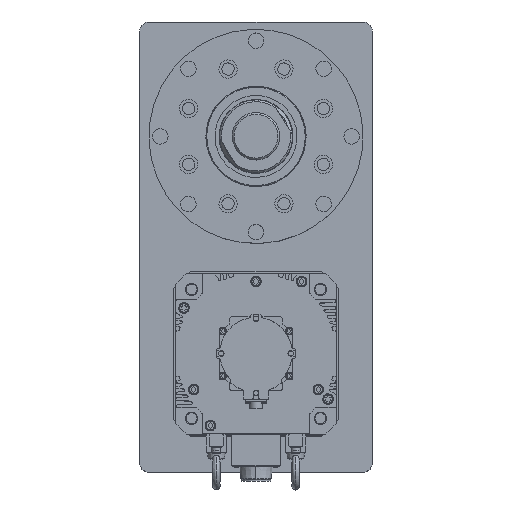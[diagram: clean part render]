
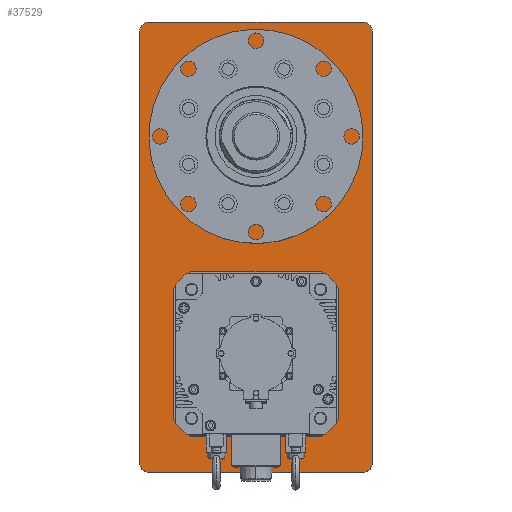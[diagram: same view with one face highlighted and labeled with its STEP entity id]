
A CAD part, top view. The second image highlights one B-rep face of the part: STEP entity #37529.
In plain terms, the highlighted planar face has unit normal (0, 0, 1) as drawn and (0, 0, -1) by its records, which use the part's own axes.
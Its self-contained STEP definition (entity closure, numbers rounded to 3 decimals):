
#390 = CARTESIAN_POINT ( 'NONE',  ( 0., -103., 0. ) ) ;
#407 = DIRECTION ( 'NONE',  ( -1., 0., 0. ) ) ;
#619 = CIRCLE ( 'NONE', #46051, 65. ) ;
#770 = ORIENTED_EDGE ( 'NONE', *, *, #1337, .T. ) ;
#855 = ORIENTED_EDGE ( 'NONE', *, *, #17366, .T. ) ;
#950 = AXIS2_PLACEMENT_3D ( 'NONE', #38802, #14546, #10804 ) ;
#1337 = EDGE_CURVE ( 'NONE', #33005, #2545, #13786, .T. ) ;
#1939 = ORIENTED_EDGE ( 'NONE', *, *, #43393, .T. ) ;
#1955 = EDGE_CURVE ( 'NONE', #38753, #8290, #36925, .T. ) ;
#2545 = VERTEX_POINT ( 'NONE', #38505 ) ;
#3919 = DIRECTION ( 'NONE',  ( 0., 0., -1. ) ) ;
#4304 = LINE ( 'NONE', #4528, #29896 ) ;
#4528 = CARTESIAN_POINT ( 'NONE',  ( -127.5, 0., 0. ) ) ;
#5196 = CARTESIAN_POINT ( 'NONE',  ( 0., 134.5, 0. ) ) ;
#5647 = CARTESIAN_POINT ( 'NONE',  ( -127.5, -220., 0. ) ) ;
#6106 = VERTEX_POINT ( 'NONE', #9423 ) ;
#6336 = EDGE_CURVE ( 'NONE', #10657, #33005, #45430, .T. ) ;
#6387 = VERTEX_POINT ( 'NONE', #12646 ) ;
#7186 = DIRECTION ( 'NONE',  ( -1., 0., 0. ) ) ;
#7335 = VERTEX_POINT ( 'NONE', #24402 ) ;
#7373 = DIRECTION ( 'NONE',  ( -1., 0., 0. ) ) ;
#7816 = VERTEX_POINT ( 'NONE', #31258 ) ;
#7971 = CARTESIAN_POINT ( 'NONE',  ( 0., 264., 0. ) ) ;
#8095 = VECTOR ( 'NONE', #15958, 1000. ) ;
#8290 = VERTEX_POINT ( 'NONE', #32287 ) ;
#8337 = AXIS2_PLACEMENT_3D ( 'NONE', #390, #11320, #7373 ) ;
#8752 = CARTESIAN_POINT ( 'NONE',  ( 0., 0., 0. ) ) ;
#8931 = AXIS2_PLACEMENT_3D ( 'NONE', #38902, #3919, #7186 ) ;
#9423 = CARTESIAN_POINT ( 'NONE',  ( -65., 134.5, 0. ) ) ;
#9591 = DIRECTION ( 'NONE',  ( -1., 0., 0. ) ) ;
#9731 = EDGE_CURVE ( 'NONE', #7335, #7816, #35143, .T. ) ;
#10383 = CARTESIAN_POINT ( 'NONE',  ( 0., 134.5, 0. ) ) ;
#10657 = VERTEX_POINT ( 'NONE', #31758 ) ;
#10803 = CIRCLE ( 'NONE', #28671, 65. ) ;
#10804 = DIRECTION ( 'NONE',  ( -1., 0., 0. ) ) ;
#11206 = CARTESIAN_POINT ( 'NONE',  ( -117.5, 264., 0. ) ) ;
#11234 = CARTESIAN_POINT ( 'NONE',  ( 117.5, -230., 0. ) ) ;
#11320 = DIRECTION ( 'NONE',  ( 0., 0., 1. ) ) ;
#11338 = CARTESIAN_POINT ( 'NONE',  ( 0., -103., 0. ) ) ;
#11930 = ORIENTED_EDGE ( 'NONE', *, *, #34383, .T. ) ;
#12465 = EDGE_LOOP ( 'NONE', ( #1939, #39604 ) ) ;
#12470 = DIRECTION ( 'NONE',  ( -1., 0., 0. ) ) ;
#12646 = CARTESIAN_POINT ( 'NONE',  ( 65., 134.5, 0. ) ) ;
#12702 = DIRECTION ( 'NONE',  ( 0., 0., -1. ) ) ;
#12755 = ORIENTED_EDGE ( 'NONE', *, *, #1955, .T. ) ;
#13331 = VERTEX_POINT ( 'NONE', #37311 ) ;
#13786 = LINE ( 'NONE', #34520, #35361 ) ;
#14546 = DIRECTION ( 'NONE',  ( 0., 0., -1. ) ) ;
#15116 = ORIENTED_EDGE ( 'NONE', *, *, #22133, .T. ) ;
#15958 = DIRECTION ( 'NONE',  ( 0., -1., 0. ) ) ;
#16197 = EDGE_LOOP ( 'NONE', ( #36908, #18365 ) ) ;
#17366 = EDGE_CURVE ( 'NONE', #8290, #10657, #22931, .T. ) ;
#17836 = DIRECTION ( 'NONE',  ( -1., 0., 0. ) ) ;
#17948 = EDGE_CURVE ( 'NONE', #13331, #39449, #33444, .T. ) ;
#18365 = ORIENTED_EDGE ( 'NONE', *, *, #38768, .T. ) ;
#18786 = VERTEX_POINT ( 'NONE', #5647 ) ;
#19401 = DIRECTION ( 'NONE',  ( 0., 0., -1. ) ) ;
#19677 = FACE_BOUND ( 'NONE', #12465, .T. ) ;
#21590 = CARTESIAN_POINT ( 'NONE',  ( 117.5, 264., 0. ) ) ;
#22133 = EDGE_CURVE ( 'NONE', #18786, #13331, #4304, .T. ) ;
#22504 = DIRECTION ( 'NONE',  ( 0., 0., 1. ) ) ;
#22931 = LINE ( 'NONE', #24257, #8095 ) ;
#24257 = CARTESIAN_POINT ( 'NONE',  ( 127.5, 0., 0. ) ) ;
#24402 = CARTESIAN_POINT ( 'NONE',  ( -50., -103., 0. ) ) ;
#25097 = AXIS2_PLACEMENT_3D ( 'NONE', #8752, #12702, #37650 ) ;
#25686 = DIRECTION ( 'NONE',  ( 1., 0., 0. ) ) ;
#26235 = PLANE ( 'NONE',  #25097 ) ;
#26260 = CIRCLE ( 'NONE', #950, 10. ) ;
#26511 = VECTOR ( 'NONE', #25686, 1000. ) ;
#26613 = EDGE_LOOP ( 'NONE', ( #15116, #38321, #29709, #12755, #855, #40197, #770, #11930 ) ) ;
#27371 = EDGE_CURVE ( 'NONE', #39449, #38753, #39224, .T. ) ;
#27468 = AXIS2_PLACEMENT_3D ( 'NONE', #11338, #22504, #407 ) ;
#28050 = CARTESIAN_POINT ( 'NONE',  ( 117.5, -220., 0. ) ) ;
#28671 = AXIS2_PLACEMENT_3D ( 'NONE', #10383, #39060, #17836 ) ;
#29659 = DIRECTION ( 'NONE',  ( -1., 0., 0. ) ) ;
#29709 = ORIENTED_EDGE ( 'NONE', *, *, #27371, .T. ) ;
#29747 = AXIS2_PLACEMENT_3D ( 'NONE', #28050, #19401, #30352 ) ;
#29896 = VECTOR ( 'NONE', #32501, 1000. ) ;
#30352 = DIRECTION ( 'NONE',  ( -1., 0., 0. ) ) ;
#30745 = DIRECTION ( 'NONE',  ( 0., 0., 1. ) ) ;
#31258 = CARTESIAN_POINT ( 'NONE',  ( 50., -103., 0. ) ) ;
#31758 = CARTESIAN_POINT ( 'NONE',  ( 127.5, -220., 0. ) ) ;
#32287 = CARTESIAN_POINT ( 'NONE',  ( 127.5, 254., 0. ) ) ;
#32426 = AXIS2_PLACEMENT_3D ( 'NONE', #36262, #40920, #12470 ) ;
#32501 = DIRECTION ( 'NONE',  ( 0., 1., 0. ) ) ;
#33005 = VERTEX_POINT ( 'NONE', #11234 ) ;
#33444 = CIRCLE ( 'NONE', #8931, 10. ) ;
#33684 = FACE_BOUND ( 'NONE', #16197, .T. ) ;
#34158 = CIRCLE ( 'NONE', #27468, 50. ) ;
#34383 = EDGE_CURVE ( 'NONE', #2545, #18786, #26260, .T. ) ;
#34520 = CARTESIAN_POINT ( 'NONE',  ( 0., -230., 0. ) ) ;
#35143 = CIRCLE ( 'NONE', #8337, 50. ) ;
#35361 = VECTOR ( 'NONE', #9591, 1000. ) ;
#36262 = CARTESIAN_POINT ( 'NONE',  ( 117.5, 254., 0. ) ) ;
#36908 = ORIENTED_EDGE ( 'NONE', *, *, #9731, .T. ) ;
#36925 = CIRCLE ( 'NONE', #32426, 10. ) ;
#37311 = CARTESIAN_POINT ( 'NONE',  ( -127.5, 254., 0. ) ) ;
#37529 = ADVANCED_FACE ( 'NONE', ( #19677, #44658, #33684 ), #26235, .T. ) ;
#37650 = DIRECTION ( 'NONE',  ( -1., 0., 0. ) ) ;
#37909 = EDGE_CURVE ( 'NONE', #6387, #6106, #619, .T. ) ;
#38321 = ORIENTED_EDGE ( 'NONE', *, *, #17948, .T. ) ;
#38505 = CARTESIAN_POINT ( 'NONE',  ( -117.5, -230., 0. ) ) ;
#38753 = VERTEX_POINT ( 'NONE', #21590 ) ;
#38768 = EDGE_CURVE ( 'NONE', #7816, #7335, #34158, .T. ) ;
#38802 = CARTESIAN_POINT ( 'NONE',  ( -117.5, -220., 0. ) ) ;
#38902 = CARTESIAN_POINT ( 'NONE',  ( -117.5, 254., 0. ) ) ;
#39060 = DIRECTION ( 'NONE',  ( 0., 0., 1. ) ) ;
#39224 = LINE ( 'NONE', #7971, #26511 ) ;
#39449 = VERTEX_POINT ( 'NONE', #11206 ) ;
#39604 = ORIENTED_EDGE ( 'NONE', *, *, #37909, .T. ) ;
#40197 = ORIENTED_EDGE ( 'NONE', *, *, #6336, .T. ) ;
#40920 = DIRECTION ( 'NONE',  ( 0., 0., -1. ) ) ;
#43393 = EDGE_CURVE ( 'NONE', #6106, #6387, #10803, .T. ) ;
#44658 = FACE_OUTER_BOUND ( 'NONE', #26613, .T. ) ;
#45430 = CIRCLE ( 'NONE', #29747, 10. ) ;
#46051 = AXIS2_PLACEMENT_3D ( 'NONE', #5196, #30745, #29659 ) ;
